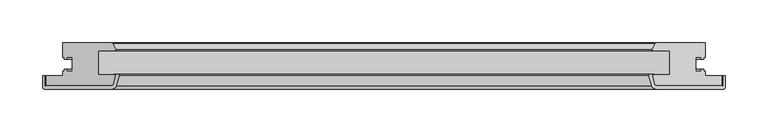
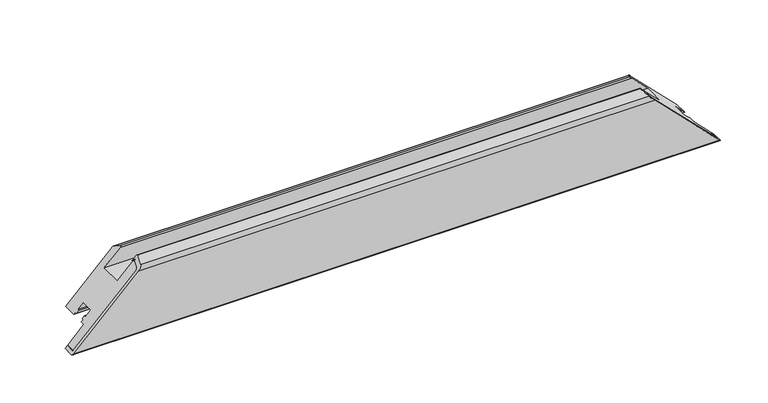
"""IFC4 building model written with IfcOpenShell, lengths in millimetres: proxy geometry, Weiku - Montante - Folha 02.2.01.018 : Weiku - Montante - Folha 02.2.01.018."""

from ifc_helpers import new_model, si_unit, frame, origin, place, context, project, spatial, polyline, ellipse_curve, source, transform, mapped, element, save
from ifc_brep_helpers import plane_surface, cylinder_surface, revolved_surface, advanced_brep


def generic_models_41a67430(model_context):
    return source(origin(), model_context, "Body", "AdvancedBrep", [
        advanced_brep(
        [(395.5, -50.0, 0.0), (-395.5, -50.0, 0.0), (-318.4997332, -50.0, 77.0002668), (318.4997332, -50.0, 77.0002668), (-315.6019557, -47.7764571, 79.8980443), (315.6019557, -47.7764571, 79.8980443), (-313.0170371, -38.1294095, 82.4829629), (313.0170371, -38.1294095, 82.4829629), (-313.5, -37.5, 82.0), (313.5, -37.5, 82.0), (-314.3560102, -37.5, 81.1439898), (314.3560102, -37.5, 81.1439898), (-314.3560102, -36.5, 81.1439898), (314.3560102, -36.5, 81.1439898), (-309.7425588, -36.5, 85.7574412), (309.7425588, -36.5, 85.7574412), (-308.7766329, -37.758819, 86.7233671), (308.7766329, -37.758819, 86.7233671), (-312.1354501, -50.2940952, 83.3645499), (312.1354501, -50.2940952, 83.3645499), (-316.9650792, -54.0, 78.5349208), (316.9650792, -54.0, 78.5349208), (-396.5, -54.0, -1.0), (396.5, -54.0, -1.0), (-398.5, -52.0, -3.0), (398.5, -52.0, -3.0), (-398.5, -38.5, -3.0), (398.5, -38.5, -3.0), (-395.5, -38.5, 0.0), (395.5, -38.5, 0.0)],
        [
            (0, 1),
            (1, 2),
            (2, 3),
            (3, 0),
            (2, 4, ellipse_curve(frame((-318.4997332, -47.0, 77.0002668), z_axis=(-0.7071067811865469, 0.0, 0.7071067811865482), x_axis=(0.707106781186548, 0.0, 0.7071067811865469)), 4.2426407, 3.0)),
            (4, 5),
            (5, 3, ellipse_curve(frame((318.4997332, -47.0, 77.0002668), z_axis=(0.707106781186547, 0.0, 0.7071067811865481), x_axis=(0.7071067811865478, 0.0, -0.707106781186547)), 4.2426407, 3.0)),
            (4, 6),
            (6, 7),
            (7, 5),
            (6, 8, ellipse_curve(frame((-313.5, -38.0, 82.0), z_axis=(-0.7071067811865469, 0.0, 0.7071067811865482), x_axis=(0.707106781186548, 0.0, 0.7071067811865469)), 0.7071068, 0.5)),
            (8, 9),
            (9, 7, ellipse_curve(frame((313.5, -38.0, 82.0), z_axis=(0.707106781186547, 0.0, 0.7071067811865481), x_axis=(0.7071067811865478, 0.0, -0.707106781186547)), 0.7071068, 0.5)),
            (8, 10),
            (10, 11),
            (11, 9),
            (10, 12, ellipse_curve(frame((-314.3560102, -37.0, 81.1439898), z_axis=(0.7071067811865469, 0.0, -0.7071067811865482), x_axis=(-0.707106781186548, 0.0, -0.7071067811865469)), 0.7071068, 0.5)),
            (12, 13),
            (13, 11, ellipse_curve(frame((314.3560102, -37.0, 81.1439898), z_axis=(-0.707106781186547, 0.0, -0.7071067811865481), x_axis=(-0.7071067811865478, 0.0, 0.707106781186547)), 0.7071068, 0.5)),
            (12, 14),
            (14, 15),
            (15, 13),
            (14, 16, ellipse_curve(frame((-309.7425588, -37.5, 85.7574412), z_axis=(0.7071067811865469, 0.0, -0.7071067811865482), x_axis=(-0.707106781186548, 0.0, -0.7071067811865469)), 1.4142136, 1.0)),
            (16, 17),
            (17, 15, ellipse_curve(frame((309.7425588, -37.5, 85.7574412), z_axis=(-0.707106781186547, 0.0, -0.7071067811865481), x_axis=(-0.7071067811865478, 0.0, 0.707106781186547)), 1.4142136, 1.0)),
            (16, 18),
            (18, 19),
            (19, 17),
            (18, 20, ellipse_curve(frame((-316.9650792, -49.0, 78.5349208), z_axis=(0.7071067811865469, 0.0, -0.7071067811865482), x_axis=(-0.707106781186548, 0.0, -0.7071067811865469)), 7.0710678, 5.0)),
            (20, 21),
            (21, 19, ellipse_curve(frame((316.9650792, -49.0, 78.5349208), z_axis=(-0.707106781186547, 0.0, -0.7071067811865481), x_axis=(-0.7071067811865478, 0.0, 0.707106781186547)), 7.0710678, 5.0)),
            (20, 22),
            (22, 23),
            (23, 21),
            (22, 24, ellipse_curve(frame((-396.5, -52.0, -1.0), z_axis=(0.7071067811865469, 0.0, -0.7071067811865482), x_axis=(-0.707106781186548, 0.0, -0.7071067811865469)), 2.8284271, 2.0)),
            (24, 25),
            (25, 23, ellipse_curve(frame((396.5, -52.0, -1.0), z_axis=(-0.707106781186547, 0.0, -0.7071067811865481), x_axis=(-0.7071067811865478, 0.0, 0.707106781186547)), 2.8284271, 2.0)),
            (24, 26),
            (26, 27),
            (27, 25),
            (26, 28),
            (28, 29),
            (29, 27),
            (28, 1),
            (0, 29),
        ],
        [
            plane_surface(frame((-415.5, -50.0, 0.0), z_axis=(0.0, 1.0, 0.0), x_axis=(1.0, 0.0, 0.0))),
            revolved_surface(polyline([(321.49973320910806, -50.0, 77.0002668), (-321.49973320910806, -50.0, 77.0002668)]), (-415.5, -47.0, 77.0002668), (1.0, 0.0, 0.0)),
            plane_surface(frame((-415.5, -47.7764571, 79.8980443), z_axis=(0.0, 0.2588190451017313, -0.9659258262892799), x_axis=(1.0, 0.0, 0.0))),
            revolved_surface(polyline([(314.00000001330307, -38.5, 82.0), (-314.0000000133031, -38.5, 82.0)]), (-415.5, -38.0, 82.0), (1.0, 0.0, 0.0)),
            plane_surface(frame((-415.5, -37.5, 82.0), z_axis=(0.0, -1.0, 0.0), x_axis=(1.0, 0.0, 0.0))),
            cylinder_surface(frame((-415.5, -37.0, 81.1439898), z_axis=(-1.0, 0.0, 0.0), x_axis=(0.0, -1.0, 0.0)), 0.5),
            plane_surface(frame((-415.5, -36.5, 81.1439898), z_axis=(0.0, 1.0, 0.0), x_axis=(1.0, 0.0, 0.0))),
            cylinder_surface(frame((-415.5, -37.5, 85.7574412), z_axis=(-1.0, 0.0, 0.0), x_axis=(0.0, -1.0, 0.0)), 1.0),
            plane_surface(frame((-415.5, -37.758819, 86.7233671), z_axis=(0.0, -0.25881904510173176, 0.9659258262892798), x_axis=(1.0, 0.0, 0.0))),
            cylinder_surface(frame((-415.5, -49.0, 78.5349208), z_axis=(-1.0, 0.0, 0.0), x_axis=(0.0, -1.0, 0.0)), 5.0),
            plane_surface(frame((-415.5, -54.0, 78.5349208), z_axis=(0.0, -1.0, 0.0), x_axis=(1.0, 0.0, 0.0))),
            cylinder_surface(frame((-415.5, -52.0, -1.0), z_axis=(-1.0, 0.0, 0.0), x_axis=(0.0, -1.0, 0.0)), 2.0),
            plane_surface(frame((-415.5, -52.0, -3.0), z_axis=(0.0, 0.0, -1.0), x_axis=(1.0, 0.0, 0.0))),
            plane_surface(frame((-415.5, -38.5, -3.0), z_axis=(0.0, 1.0, 0.0), x_axis=(1.0, 0.0, 0.0))),
            plane_surface(frame((-415.5, -38.5, 0.0), z_axis=(0.0, 0.0, 1.0), x_axis=(1.0, 0.0, 0.0))),
            plane_surface(frame((305.5, 0.0, 90.0), z_axis=(0.707106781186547, 0.0, 0.7071067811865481), x_axis=(0.0, -1.0, 0.0))),
            plane_surface(frame((-423.7842712, 0.0, -28.2842712), z_axis=(-0.7071067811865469, 0.0, 0.7071067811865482), x_axis=(0.0, -1.0, 0.0))),
        ],
        [
            (0, [[1, 2, 3, 4]]),
            (1, [[-3, 5, 6, 7]]),
            (2, [[-6, 8, 9, 10]]),
            (3, [[-9, 11, 12, 13]]),
            (4, [[-12, 14, 15, 16]]),
            (5, [[-15, 17, 18, 19]]),
            (6, [[-18, 20, 21, 22]]),
            (7, [[-21, 23, 24, 25]]),
            (8, [[-24, 26, 27, 28]]),
            (9, [[-27, 29, 30, 31]]),
            (10, [[-30, 32, 33, 34]]),
            (11, [[-33, 35, 36, 37]]),
            (12, [[-36, 38, 39, 40]]),
            (13, [[-39, 41, 42, 43]]),
            (14, [[-42, 44, -1, 45]]),
            (15, [[-7, -10, -13, -16, -19, -22, -25, -28, -31, -34, -37, -40, -43, -45, -4]]),
            (16, [[-44, -41, -38, -35, -32, -29, -26, -23, -20, -17, -14, -11, -8, -5, -2]]),
        ],
    ),
        advanced_brep(
        [(395.5, -50.0, 0.0), (318.4997332, -50.0, 77.0002668), (-318.4997332, -50.0, 77.0002668), (-395.5, -50.0, 0.0), (-395.5, -38.5, 0.0), (395.5, -38.5, 0.0), (-317.4872264, 0.0, 78.0127736), (317.4872264, 0.0, 78.0127736), (375.5, 0.0, 20.0), (-375.5, 0.0, 20.0), (-315.6019557, -47.7764571, 79.8980443), (-313.0170371, -38.1294095, 82.4829629), (-313.5, -37.5, 82.0), (-334.0, -37.5, 61.5), (-334.0, -9.5, 61.5), (-314.2134285, -9.5, 81.2865715), (-313.0512796, -7.617411, 82.4487204), (-316.5932657, -0.5518546, 78.9067343), (-375.5, -16.9, 20.0), (-373.3, -16.9, 22.2), (-373.3, -18.9, 22.2), (-370.5, -18.9, 25.0), (-370.5, -16.9, 25.0), (-364.0, -16.9, 31.5), (-364.0, -33.1, 31.5), (-370.5, -33.1, 25.0), (-370.5, -31.1, 25.0), (-373.3, -31.1, 22.2), (-373.3, -33.1, 22.2), (-375.5, -33.1, 20.0), (-375.5, -38.5, 20.0), (375.5, -38.5, 20.0), (375.5, -33.1, 20.0), (373.3, -33.1, 22.2), (373.3, -31.1, 22.2), (370.5, -31.1, 25.0), (370.5, -33.1, 25.0), (364.0, -33.1, 31.5), (364.0, -16.9, 31.5), (370.5, -16.9, 25.0), (370.5, -18.9, 25.0), (373.3, -18.9, 22.2), (373.3, -16.9, 22.2), (375.5, -16.9, 20.0), (316.5932657, -0.5518546, 78.9067343), (313.0512796, -7.617411, 82.4487204), (314.2134285, -9.5, 81.2865715), (334.0, -9.5, 61.5), (334.0, -37.5, 61.5), (313.5, -37.5, 82.0), (313.0170371, -38.1294095, 82.4829629), (315.6019557, -47.7764571, 79.8980443)],
        [
            (0, 1),
            (1, 2),
            (2, 3),
            (3, 0),
            (3, 4),
            (4, 5),
            (5, 0),
            (6, 7),
            (7, 8),
            (8, 9),
            (9, 6),
            (2, 10, ellipse_curve(frame((-318.4997332, -47.0, 77.0002668), z_axis=(-0.7071067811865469, 0.0, 0.7071067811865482), x_axis=(-0.707106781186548, 0.0, -0.7071067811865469)), 4.2426407, 3.0)),
            (10, 11),
            (11, 12, ellipse_curve(frame((-313.5, -38.0, 82.0), z_axis=(-0.7071067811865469, 0.0, 0.7071067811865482), x_axis=(-0.707106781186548, 0.0, -0.7071067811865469)), 0.7071068, 0.5)),
            (12, 13),
            (13, 14),
            (14, 15),
            (15, 16, ellipse_curve(frame((-314.2134285, -8.2, 81.2865715), z_axis=(-0.7071067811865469, 0.0, 0.7071067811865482), x_axis=(-0.707106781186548, 0.0, -0.7071067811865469)), 1.8384776, 1.3)),
            (16, 17),
            (17, 6, ellipse_curve(frame((-317.4872264, -1.0, 78.0127736), z_axis=(-0.7071067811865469, 0.0, 0.7071067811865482), x_axis=(-0.707106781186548, 0.0, -0.7071067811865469)), 1.4142136, 1.0)),
            (9, 18),
            (18, 19),
            (19, 20),
            (20, 21),
            (21, 22),
            (22, 23),
            (23, 24),
            (24, 25),
            (25, 26),
            (26, 27),
            (27, 28),
            (28, 29),
            (29, 30),
            (30, 4),
            (5, 31),
            (31, 32),
            (32, 33),
            (33, 34),
            (34, 35),
            (35, 36),
            (36, 37),
            (37, 38),
            (38, 39),
            (39, 40),
            (40, 41),
            (41, 42),
            (42, 43),
            (43, 8),
            (7, 44, ellipse_curve(frame((317.4872264, -1.0, 78.0127736), z_axis=(0.707106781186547, 0.0, 0.7071067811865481), x_axis=(-0.7071067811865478, 0.0, 0.707106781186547)), 1.4142136, 1.0)),
            (44, 45),
            (45, 46, ellipse_curve(frame((314.2134285, -8.2, 81.2865715), z_axis=(0.707106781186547, 0.0, 0.7071067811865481), x_axis=(-0.7071067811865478, 0.0, 0.707106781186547)), 1.8384776, 1.3)),
            (46, 47),
            (47, 48),
            (48, 49),
            (49, 50, ellipse_curve(frame((313.5, -38.0, 82.0), z_axis=(0.707106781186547, 0.0, 0.7071067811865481), x_axis=(-0.7071067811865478, 0.0, 0.707106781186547)), 0.7071068, 0.5)),
            (50, 51),
            (51, 1, ellipse_curve(frame((318.4997332, -47.0, 77.0002668), z_axis=(0.707106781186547, 0.0, 0.7071067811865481), x_axis=(-0.7071067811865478, 0.0, 0.707106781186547)), 4.2426407, 3.0)),
            (17, 44),
            (16, 45),
            (15, 46),
            (14, 47),
            (13, 48),
            (12, 49),
            (11, 50),
            (10, 51),
            (30, 31),
            (29, 32),
            (28, 33),
            (27, 34),
            (26, 35),
            (25, 36),
            (24, 37),
            (23, 38),
            (22, 39),
            (21, 40),
            (20, 41),
            (19, 42),
            (18, 43),
        ],
        [
            plane_surface(frame((-395.5, -50.0, 77.0002668), z_axis=(0.0, -1.0, 0.0), x_axis=(1.0, 0.0, 0.0))),
            plane_surface(frame((-395.5, -50.0, 0.0), z_axis=(0.0, 0.0, -1.0), x_axis=(1.0, 0.0, 0.0))),
            plane_surface(frame((-395.5, 0.0, 20.0), z_axis=(0.0, 1.0, 0.0), x_axis=(1.0, 0.0, 0.0))),
            plane_surface(frame((-423.7842712, 0.0, -28.2842712), z_axis=(-0.7071067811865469, 0.0, 0.7071067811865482), x_axis=(0.0, -1.0, 0.0))),
            plane_surface(frame((305.5, 0.0, 90.0), z_axis=(0.707106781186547, 0.0, 0.7071067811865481), x_axis=(0.0, -1.0, 0.0))),
            cylinder_surface(frame((-395.5, -1.0, 78.0127736), z_axis=(-1.0, 0.0, 0.0), x_axis=(0.0, -1.0, 0.0)), 1.0),
            plane_surface(frame((-395.5, -0.5518546, 78.9067343), z_axis=(0.0, 0.4481453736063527, 0.8939606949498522), x_axis=(1.0, 0.0, 0.0))),
            cylinder_surface(frame((-395.5, -8.2, 81.2865715), z_axis=(-1.0, 0.0, 0.0), x_axis=(0.0, -1.0, 0.0)), 1.3),
            plane_surface(frame((-395.5, -9.5, 81.2865715), z_axis=(0.0, -1.0, 0.0), x_axis=(1.0, 0.0, 0.0))),
            plane_surface(frame((-395.5, -9.5, 61.5), z_axis=(0.0, 0.0, 1.0), x_axis=(1.0, 0.0, 0.0))),
            plane_surface(frame((-395.5, -37.5, 61.5), z_axis=(0.0, 1.0, 0.0), x_axis=(1.0, 0.0, 0.0))),
            cylinder_surface(frame((-395.5, -38.0, 82.0), z_axis=(-1.0, 0.0, 0.0), x_axis=(0.0, -1.0, 0.0)), 0.5),
            plane_surface(frame((-395.5, -38.1294095, 82.4829629), z_axis=(0.0, -0.2588190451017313, 0.9659258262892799), x_axis=(1.0, 0.0, 0.0))),
            cylinder_surface(frame((-395.5, -47.0, 77.0002668), z_axis=(-1.0, 0.0, 0.0), x_axis=(0.0, -1.0, 0.0)), 3.0),
            plane_surface(frame((-395.5, -38.5, 0.0), z_axis=(0.0, 1.0, 0.0), x_axis=(1.0, 0.0, 0.0))),
            plane_surface(frame((-395.5, -38.5, 20.0), z_axis=(0.0, 0.0, -1.0), x_axis=(1.0, 0.0, 0.0))),
            plane_surface(frame((-395.5, -33.1, 20.0), z_axis=(0.0, 1.0, 0.0), x_axis=(1.0, 0.0, 0.0))),
            plane_surface(frame((-395.5, -33.1, 22.2), z_axis=(0.0, 0.0, -1.0), x_axis=(1.0, 0.0, 0.0))),
            plane_surface(frame((-395.5, -31.1, 22.2), z_axis=(0.0, 1.0, 0.0), x_axis=(1.0, 0.0, 0.0))),
            plane_surface(frame((-395.5, -31.1, 25.0), z_axis=(0.0, 0.0, 1.0), x_axis=(1.0, 0.0, 0.0))),
            plane_surface(frame((-395.5, -33.1, 25.0), z_axis=(0.0, 1.0, 0.0), x_axis=(1.0, 0.0, 0.0))),
            plane_surface(frame((-395.5, -33.1, 31.5), z_axis=(0.0, 0.0, -1.0), x_axis=(1.0, 0.0, 0.0))),
            plane_surface(frame((-395.5, -16.9, 31.5), z_axis=(0.0, -1.0, 0.0), x_axis=(1.0, 0.0, 0.0))),
            plane_surface(frame((-395.5, -16.9, 25.0), z_axis=(0.0, 0.0, 1.0), x_axis=(1.0, 0.0, 0.0))),
            plane_surface(frame((-395.5, -18.9, 25.0), z_axis=(0.0, -1.0, 0.0), x_axis=(1.0, 0.0, 0.0))),
            plane_surface(frame((-395.5, -18.9, 22.2), z_axis=(0.0, 0.0, -1.0), x_axis=(1.0, 0.0, 0.0))),
            plane_surface(frame((-395.5, -16.9, 22.2), z_axis=(0.0, -1.0, 0.0), x_axis=(1.0, 0.0, 0.0))),
            plane_surface(frame((-395.5, -16.9, 20.0), z_axis=(0.0, 0.0, -1.0), x_axis=(1.0, 0.0, 0.0))),
        ],
        [
            (0, [[1, 2, 3, 4]]),
            (1, [[5, 6, 7, -4]]),
            (2, [[8, 9, 10, 11]]),
            (3, [[12, 13, 14, 15, 16, 17, 18, 19, 20, -11, 21, 22, 23, 24, 25, 26, 27, 28, 29, 30, 31, 32, 33, 34, -5, -3]]),
            (4, [[-7, 35, 36, 37, 38, 39, 40, 41, 42, 43, 44, 45, 46, 47, 48, -9, 49, 50, 51, 52, 53, 54, 55, 56, 57, -1]]),
            (5, [[58, -49, -8, -20]]),
            (6, [[59, -50, -58, -19]]),
            (7, [[60, -51, -59, -18]]),
            (8, [[61, -52, -60, -17]]),
            (9, [[62, -53, -61, -16]]),
            (10, [[63, -54, -62, -15]]),
            (11, [[64, -55, -63, -14]]),
            (12, [[65, -56, -64, -13]]),
            (13, [[-2, -57, -65, -12]]),
            (14, [[-34, 66, -35, -6]]),
            (15, [[67, -36, -66, -33]]),
            (16, [[68, -37, -67, -32]]),
            (17, [[69, -38, -68, -31]]),
            (18, [[70, -39, -69, -30]]),
            (19, [[71, -40, -70, -29]]),
            (20, [[72, -41, -71, -28]]),
            (21, [[73, -42, -72, -27]]),
            (22, [[74, -43, -73, -26]]),
            (23, [[75, -44, -74, -25]]),
            (24, [[76, -45, -75, -24]]),
            (25, [[77, -46, -76, -23]]),
            (26, [[78, -47, -77, -22]]),
            (27, [[-10, -48, -78, -21]]),
        ],
    ),
    ])


if __name__ == "__main__":
    model = new_model("IFC4")
    model_context = context("Model", 3, world=origin())
    ifc_project = project(units=[si_unit("LENGTHUNIT", "METRE", prefix="MILLI")], contexts=[model_context])
    site = spatial("IfcSite", under=ifc_project)
    building = spatial("IfcBuilding", under=site)
    placement = place(None, origin())
    generic_models_shape = generic_models_41a67430(model_context)
    element("IfcBuildingElementProxy", 1, Name="Weiku - Montante - Folha 02.2.01.018 : Weiku - Montante - Folha 02.2.01.018", ObjectType="Weiku - Montante - Folha 02.2.01.018 : Weiku - Montante - Folha 02.2.01.018", at=placement, inside=building, context=model_context, shape_type="MappedRepresentation", body=[
        mapped(generic_models_shape, transform((0.0, 0.0, 0.0), x_axis=(1.0, 0.0, 0.0), y_axis=(0.0, 1.0, 0.0), z_axis=(0.0, 0.0, 1.0))),
    ])
    save(model, "model.ifc")
